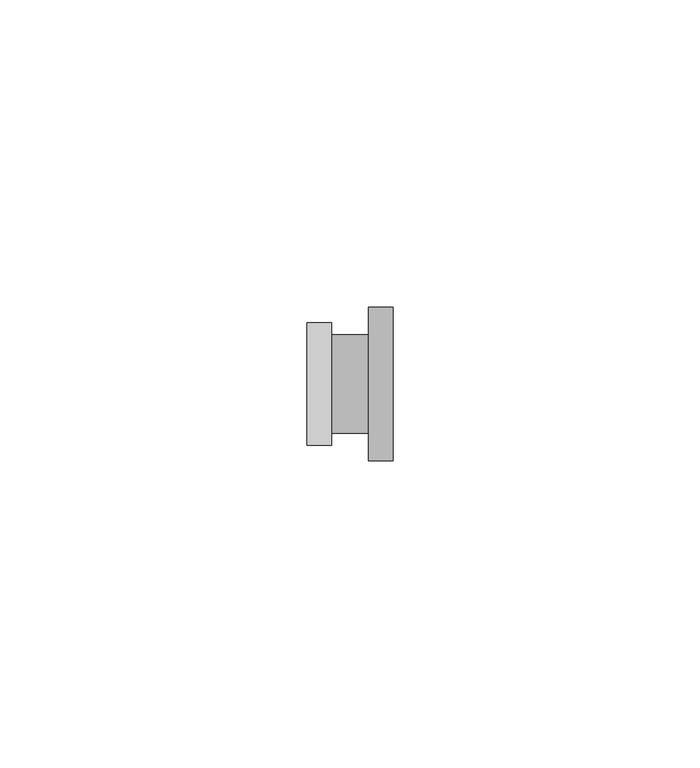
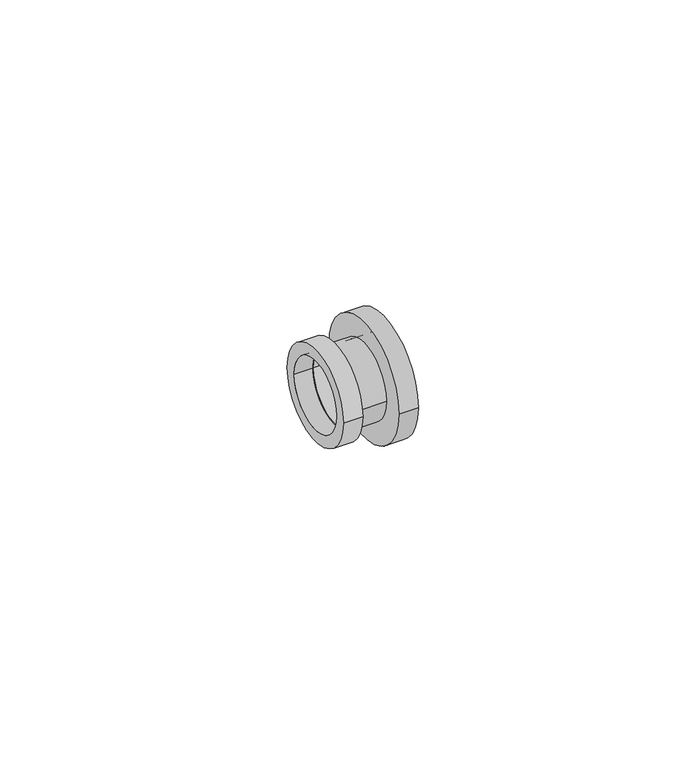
"""IFC4 building model written with IfcOpenShell, lengths in millimetres: pipe fitting geometry, БИР ПЕКС_НПР_Соединитель_Резьба_Внутренняя : Соединитель прямой с внутренней резьбой."""

import ifcopenshell
import ifcopenshell.guid

model = None  # the IFC model being written
_history = None  # IfcOwnerHistory: only IFC2X3 demands one
_inside = {}  # id of a spatial element -> (the spatial element, [elements in it])
_under = {}  # id of a project, library or spatial element -> (it, [spatial elements below it])
_declared = {}  # id of a project -> (the project, [libraries it declares])
_typed = {}  # id of a type object -> (the type object, [elements of that type])
_made_of = {}  # id of a material, layer set ... -> (it, [elements and type objects made of it])


def new_model(schema):
    """Start an empty IFC model of exactly this schema.

    Asked for "IFC4X3", IfcOpenShell would pick the latest addendum, in which some entities
    have other attributes; the version numbers below select the first issue.
    IFC2X3 requires an IfcOwnerHistory on every rooted entity: one is made here for all.
    """
    global model, _history
    if schema == "IFC4X3":
        model = ifcopenshell.file(schema_version=(4, 3, 0, 0))
    else:
        model = ifcopenshell.file(schema=schema)
    _inside.clear()
    _under.clear()
    _declared.clear()
    _typed.clear()
    _made_of.clear()
    _history = None
    if model.schema == "IFC2X3":
        org = make("IfcOrganization", Name="unknown")
        user = make(
            "IfcPersonAndOrganization",
            ThePerson=make("IfcPerson", FamilyName="unknown"),
            TheOrganization=org,
        )
        app = make(
            "IfcApplication",
            ApplicationDeveloper=org,
            Version="unknown",
            ApplicationFullName="unknown",
            ApplicationIdentifier="unknown",
        )
        _history = make(
            "IfcOwnerHistory",
            OwningUser=user,
            OwningApplication=app,
            ChangeAction="ADDED",
            CreationDate=0,
        )
    return model


def make(cls, **values):
    """One entity of the class cls with the attributes given. An attribute that is None is left unset."""
    return model.create_entity(
        cls, **{name: value for name, value in values.items() if value is not None}
    )


def rooted(cls, **values):
    """An entity with a GlobalId (a new one), such as an element, a storey or a relation."""
    return make(cls, GlobalId=ifcopenshell.guid.new(), OwnerHistory=_history, **values)


def si_unit(unit_type, name, prefix=None):
    """IfcSIUnit, for example si_unit("LENGTHUNIT", "METRE", prefix="MILLI")."""
    return make("IfcSIUnit", UnitType=unit_type, Prefix=prefix, Name=name)


def assignment(units):
    """IfcUnitAssignment: the units of a project."""
    return None if units is None else make("IfcUnitAssignment", Units=units)


def point(xyz):
    """IfcCartesianPoint."""
    return None if xyz is None else make("IfcCartesianPoint", Coordinates=xyz)


def direction(xyz):
    """IfcDirection."""
    return None if xyz is None else make("IfcDirection", DirectionRatios=xyz)


def frame(location, z_axis=None, x_axis=None):
    """IfcAxis2Placement3D, a coordinate frame: its origin and axes. An axis left out is left unset."""
    return make(
        "IfcAxis2Placement3D",
        Location=point(location),
        Axis=direction(z_axis),
        RefDirection=direction(x_axis),
    )


def frame_2d(location, x_axis=None):
    """IfcAxis2Placement2D, a coordinate frame in the plane: its origin and x axis."""
    return make(
        "IfcAxis2Placement2D", Location=point(location), RefDirection=direction(x_axis)
    )


def origin():
    """The frame at (0, 0, 0) with its axes left unset."""
    return frame((0.0, 0.0, 0.0))


def origin_2d():
    """The frame at (0, 0) in the plane with its x axis left unset."""
    return frame_2d((0.0, 0.0))


def place(relative_to, where):
    """IfcLocalPlacement: puts the frame where relative to a parent placement (None: the world)."""
    return make(
        "IfcLocalPlacement", PlacementRelTo=relative_to, RelativePlacement=where
    )


def context(
    kind, dimensions, precision=None, world=None, true_north=None, identifier=None
):
    """IfcGeometricRepresentationContext, for example the 3D "Model" context."""
    return make(
        "IfcGeometricRepresentationContext",
        ContextIdentifier=identifier,
        ContextType=kind,
        CoordinateSpaceDimension=dimensions,
        Precision=precision,
        WorldCoordinateSystem=world,
        TrueNorth=true_north,
    )


def project(units=None, contexts=None):
    """IfcProject with its units and contexts."""
    return rooted(
        "IfcProject",
        Name="project",
        RepresentationContexts=contexts,
        UnitsInContext=assignment(units),
    )


def spatial(cls, under=None, at=None, **own):
    """A site, building, storey or space (cls), placed at a placement, below another one or the project."""
    s = rooted(cls, ObjectPlacement=at, **own)
    if under is not None:
        _under.setdefault(under.id(), (under, []))[1].append(s)
    return s


def circle_curve(where, radius):
    """IfcCircle in the frame where."""
    return make("IfcCircle", Position=where, Radius=radius)


def trimmed(basis, trim1, trim2, sense, master):
    """IfcTrimmedCurve: the piece of a basis curve between two trims."""
    return make(
        "IfcTrimmedCurve",
        BasisCurve=basis,
        Trim1=trim1,
        Trim2=trim2,
        SenseAgreement=sense,
        MasterRepresentation=master,
    )


def segment(curve, same_sense, transition):
    """IfcCompositeCurveSegment."""
    return make(
        "IfcCompositeCurveSegment",
        Transition=transition,
        SameSense=same_sense,
        ParentCurve=curve,
    )


def composite_curve(segments, self_intersect=None):
    """IfcCompositeCurve: segments joined end to end."""
    return make("IfcCompositeCurve", Segments=segments, SelfIntersect=self_intersect)


def outline(outer, holes=None, kind="AREA"):
    """IfcArbitraryClosedProfileDef: a profile drawn as a closed curve; with holes, ...WithVoids."""
    if holes is None:
        return make("IfcArbitraryClosedProfileDef", ProfileType=kind, OuterCurve=outer)
    return make(
        "IfcArbitraryProfileDefWithVoids",
        ProfileType=kind,
        OuterCurve=outer,
        InnerCurves=holes,
    )


def extrude(swept, where, along, depth):
    """IfcExtrudedAreaSolid: the profile swept, set in the frame where, extruded along a direction by depth."""
    return make(
        "IfcExtrudedAreaSolid",
        SweptArea=swept,
        Position=where,
        ExtrudedDirection=direction(along),
        Depth=depth,
    )


def shape(context_of_items, identifier, shape_type, items):
    """IfcShapeRepresentation: the items that make up one representation, for example the "Body"."""
    return make(
        "IfcShapeRepresentation",
        ContextOfItems=context_of_items,
        RepresentationIdentifier=identifier,
        RepresentationType=shape_type,
        Items=items,
    )


def source(mapping_origin, context_of_items, identifier, shape_type, items):
    """IfcRepresentationMap: a shape defined once, which mapped items show again and again."""
    return make(
        "IfcRepresentationMap",
        MappingOrigin=mapping_origin,
        MappedRepresentation=shape(context_of_items, identifier, shape_type, items),
    )


def transform(
    local_origin,
    x_axis=None,
    y_axis=None,
    z_axis=None,
    scale=None,
    scale2=None,
    scale3=None,
    uniform=True,
):
    """IfcCartesianTransformationOperator3D, or its non-uniform kind. x_axis, y_axis, z_axis: its Axis1, 2, 3."""
    if uniform:
        return make(
            "IfcCartesianTransformationOperator3D",
            Axis1=direction(x_axis),
            Axis2=direction(y_axis),
            LocalOrigin=point(local_origin),
            Scale=scale,
            Axis3=direction(z_axis),
        )
    return make(
        "IfcCartesianTransformationOperator3DnonUniform",
        Axis1=direction(x_axis),
        Axis2=direction(y_axis),
        LocalOrigin=point(local_origin),
        Scale=scale,
        Axis3=direction(z_axis),
        Scale2=scale2,
        Scale3=scale3,
    )


def mapped(mapping_source, mapping_target):
    """IfcMappedItem: shows the shape of a source again, moved by a transform."""
    return make(
        "IfcMappedItem", MappingSource=mapping_source, MappingTarget=mapping_target
    )


def made_of(thing, what):
    """Note that an element or type object is made of a material, layer set ...; save() writes the relation."""
    if what is not None:
        _made_of.setdefault(what.id(), (what, []))[1].append(thing)
    return thing


def element(
    cls,
    number,
    at=None,
    inside=None,
    cuts=None,
    type_object=None,
    material=None,
    context=None,
    identifier="Body",
    shape_type=None,
    held_by="IfcProductDefinitionShape",
    body=None,
    shapes=None,
    **own,
):
    """One element of the class cls, such as IfcWall. Its Tag is "e" and its number.

    at: its placement. inside: the storey or other place that contains it. cuts: it is an
    opening in that element (IfcRelVoidsElement). A single representation is given by context,
    identifier, shape_type and body (its items); several are given by shapes. held_by: the class
    of the entity that holds the representations. save() writes the other relations.
    """
    e = rooted(cls, Tag="e%d" % number, ObjectPlacement=at, **own)
    if body is not None:
        shapes = [shape(context, identifier, shape_type, body)]
    if shapes is not None:
        e.Representation = make(held_by, Representations=shapes)
    if inside is not None:
        _inside.setdefault(inside.id(), (inside, []))[1].append(e)
    if cuts is not None:
        rooted(
            "IfcRelVoidsElement", RelatingBuildingElement=cuts, RelatedOpeningElement=e
        )
    if type_object is not None:
        _typed.setdefault(type_object.id(), (type_object, []))[1].append(e)
    return made_of(e, material)


def aggregate(whole, parts):
    """IfcRelAggregates: a whole, such as a stair, and the parts it consists of."""
    return rooted("IfcRelAggregates", RelatingObject=whole, RelatedObjects=parts)


def save(model, path):
    """Write the relations noted so far, then the file.

    IfcRelAggregates (storeys below a building ...), IfcRelContainedInSpatialStructure (elements
    in a storey), IfcRelDefinesByType, IfcRelAssociatesMaterial and IfcRelDeclares: one each for
    every whole, place, type object, material and project.
    """
    for whole, parts in _under.values():
        aggregate(whole, parts)
    for where, things in _inside.values():
        rooted(
            "IfcRelContainedInSpatialStructure",
            RelatedElements=things,
            RelatingStructure=where,
        )
    for kind, things in _typed.values():
        rooted("IfcRelDefinesByType", RelatedObjects=things, RelatingType=kind)
    for what, things in _made_of.values():
        rooted("IfcRelAssociatesMaterial", RelatedObjects=things, RelatingMaterial=what)
    for by, libraries in _declared.values():
        rooted("IfcRelDeclares", RelatingContext=by, RelatedDefinitions=libraries)
    model.write(path)


def pipe_fitting_a9df3e61(model_context):
    return source(origin(), model_context, "Body", "SweptSolid", [
        extrude(outline(composite_curve([segment(trimmed(circle_curve(origin_2d(), 8.0), [point((-8.0, 0.0))], [point((8.0, 0.0))], False, "CARTESIAN"), True, "CONTINUOUS"), segment(trimmed(circle_curve(origin_2d(), 8.0), [point((8.0, 0.0))], [point((-8.0, 0.0))], False, "CARTESIAN"), True, "CONTINUOUS")], self_intersect=False), holes=[composite_curve([segment(trimmed(circle_curve(origin_2d(), 7.5), [point((-7.5, 0.0))], [point((7.5, 0.0))], True, "CARTESIAN"), True, "CONTINUOUS"), segment(trimmed(circle_curve(origin_2d(), 7.5), [point((7.5, 0.0))], [point((-7.5, 0.0))], True, "CARTESIAN"), True, "CONTINUOUS")], self_intersect=False)]), frame((-3.0, 0.0, 0.0), z_axis=(1.0, 0.0, 0.0), x_axis=(0.0, 1.0, 0.0)), (0.0, 0.0, 1.0), 6.0),
        extrude(outline(composite_curve([segment(trimmed(circle_curve(origin_2d(), 12.5), [point((-12.5, 0.0))], [point((12.5, 0.0))], False, "CARTESIAN"), True, "CONTINUOUS"), segment(trimmed(circle_curve(origin_2d(), 12.5), [point((12.5, 0.0))], [point((-12.5, 0.0))], False, "CARTESIAN"), True, "CONTINUOUS")], self_intersect=False), holes=[composite_curve([segment(trimmed(circle_curve(origin_2d(), 7.5), [point((-7.5, 0.0))], [point((7.5, 0.0))], True, "CARTESIAN"), True, "CONTINUOUS"), segment(trimmed(circle_curve(origin_2d(), 7.5), [point((7.5, 0.0))], [point((-7.5, 0.0))], True, "CARTESIAN"), True, "CONTINUOUS")], self_intersect=False)]), frame((3.0, 0.0, 0.0), z_axis=(1.0, 0.0, 0.0), x_axis=(0.0, 1.0, 0.0)), (0.0, 0.0, 1.0), 4.0),
        extrude(outline(composite_curve([segment(trimmed(circle_curve(origin_2d(), 10.0), [point((-10.0, 0.0))], [point((10.0, 0.0))], False, "CARTESIAN"), True, "CONTINUOUS"), segment(trimmed(circle_curve(origin_2d(), 10.0), [point((10.0, 0.0))], [point((-10.0, 0.0))], False, "CARTESIAN"), True, "CONTINUOUS")], self_intersect=False), holes=[composite_curve([segment(trimmed(circle_curve(origin_2d(), 7.5), [point((-7.5, 0.0))], [point((7.5, 0.0))], True, "CARTESIAN"), True, "CONTINUOUS"), segment(trimmed(circle_curve(origin_2d(), 7.5), [point((7.5, 0.0))], [point((-7.5, 0.0))], True, "CARTESIAN"), True, "CONTINUOUS")], self_intersect=False)]), frame((-7.0, 0.0, 0.0), z_axis=(1.0, 0.0, 0.0), x_axis=(0.0, 1.0, 0.0)), (0.0, 0.0, 1.0), 4.0),
    ])


if __name__ == "__main__":
    model = new_model("IFC4")
    model_context = context("Model", 3, world=origin())
    ifc_project = project(units=[si_unit("LENGTHUNIT", "METRE", prefix="MILLI")], contexts=[model_context])
    site = spatial("IfcSite", under=ifc_project)
    building = spatial("IfcBuilding", under=site)
    placement = place(None, origin())
    pipe_fitting_shape = pipe_fitting_a9df3e61(model_context)
    element("IfcPipeFitting", 1, ObjectType="БИР ПЕКС_НПР_Соединитель_Резьба_Внутренняя : Соединитель прямой с внутренней резьбой", at=placement, inside=building, context=model_context, shape_type="MappedRepresentation", body=[
        mapped(pipe_fitting_shape, transform((0.0, 0.0, 0.0), x_axis=(1.0, 0.0, 0.0), y_axis=(0.0, 1.0, 0.0), z_axis=(0.0, 0.0, 1.0))),
    ])
    save(model, "model.ifc")
